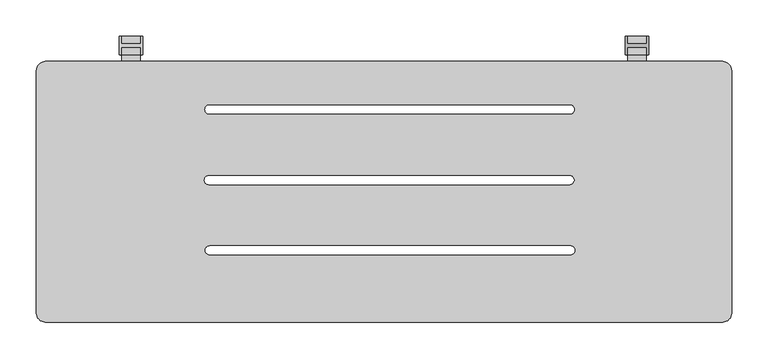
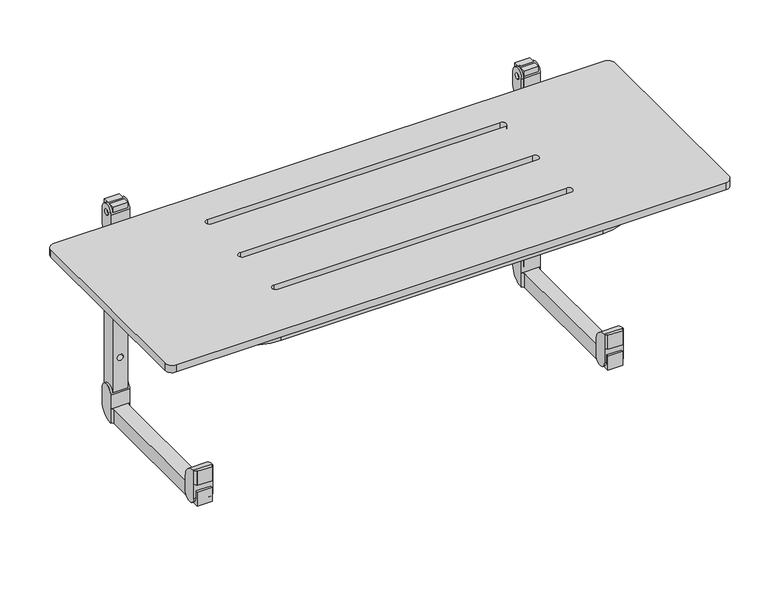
"""IFC4 building model written with IfcOpenShell, lengths in millimetres: proxy geometry, Shower Seat_Metlam_Folding_Support Legs : 960w x 395d x 498h (ML995_CL)."""

from ifc_helpers import new_model, si_unit, point, frame, frame_2d, origin, place, context, project, spatial, polyline, circle_curve, trimmed, segment, composite_curve, outline, extrude, source, transform, mapped, element, save
from ifc_brep_helpers import plane_surface, cylinder_surface, revolved_surface, advanced_brep


def specialty_equipment_d78e6f0b(model_context):
    return source(origin(), model_context, "Body", "SolidModel", [
        advanced_brep(
        [(165.1717474, -493.4976949, 138.1548324), (165.1717474, -493.4976949, 113.0931199), (165.1717474, -476.9976949, 113.0931199), (165.1717474, -489.4976949, 125.5931199), (165.1717474, -489.4976949, 138.1548324), (165.1717474, -249.3995044, 113.0931199), (165.1717474, -249.3995044, 138.1548324), (165.1717474, -464.4976949, 138.1548324), (165.1717474, -464.4976949, 125.5931199), (140.1717474, -493.4976949, 113.0931199), (140.1717474, -493.4976949, 138.1548324), (140.1717474, -489.4976949, 138.1548324), (140.1717474, -489.4976949, 125.5931199), (140.1717474, -476.9976949, 113.0931199), (140.1717474, -249.3995044, 138.1548324), (140.1717474, -249.3995044, 113.0931199), (140.1717474, -464.4976949, 125.5931199), (140.1717474, -464.4976949, 138.1548324), (136.6717474, -245.8995044, 113.0931199), (136.6717474, -244.6671774, 113.0931199), (168.6717474, -244.6671774, 113.0931199), (168.6717474, -245.8995044, 113.0931199), (136.6717474, -245.8995044, 138.1548324), (168.6717474, -245.8995044, 138.1548324), (136.6717474, -220.8995044, 136.8607929), (136.6717474, -245.8995044, 162.885238), (136.6717474, -220.8995044, 162.885238), (168.6717474, -220.8995044, 136.8607929), (168.6717474, -220.8995044, 162.885238), (168.6717474, -245.8995044, 162.885238), (136.6717474, -488.2653679, 175.385238), (136.6717474, -489.4976949, 175.385238), (140.1717474, -492.9976949, 175.385238), (140.1717474, -493.4976949, 175.385238), (165.1717474, -493.4976949, 175.385238), (165.1717474, -492.9976949, 175.385238), (168.6717474, -489.4976949, 175.385238), (168.6717474, -488.2653679, 175.385238), (168.6717474, -489.4976949, 150.385238), (165.1717474, -492.9976949, 150.385238), (165.1717474, -493.4976949, 150.385238), (140.1717474, -493.4976949, 150.385238), (140.1717474, -492.9976949, 150.385238), (136.6717474, -489.4976949, 150.385238), (136.6717474, -464.4976949, 151.617565), (136.6717474, -464.4976949, 125.5931199), (136.6717474, -489.4976949, 125.5931199), (168.6717474, -464.4976949, 151.617565), (168.6717474, -489.4976949, 125.5931199), (168.6717474, -464.4976949, 125.5931199)],
        [
            (0, 1),
            (1, 2),
            (2, 3, circle_curve(frame((165.1717474, -476.9976949, 125.5931199), z_axis=(-1.0, 0.0, 0.0), x_axis=(0.0, 0.0, -1.0)), 12.5)),
            (3, 4),
            (4, 0),
            (5, 6),
            (6, 7),
            (7, 8),
            (8, 2, circle_curve(frame((165.1717474, -476.9976949, 125.5931199), z_axis=(-1.0, 0.0, 0.0), x_axis=(0.0, 0.0, -1.0)), 12.5)),
            (2, 5),
            (9, 10),
            (10, 11),
            (11, 12),
            (12, 13, circle_curve(frame((140.1717474, -476.9976949, 125.5931199), z_axis=(1.0, 0.0, 0.0), x_axis=(0.0, 0.0, -1.0)), 12.5)),
            (13, 9),
            (14, 15),
            (15, 13),
            (13, 16, circle_curve(frame((140.1717474, -476.9976949, 125.5931199), z_axis=(1.0, 0.0, 0.0), x_axis=(0.0, 0.0, -1.0)), 12.5)),
            (16, 17),
            (17, 14),
            (1, 9),
            (15, 18, circle_curve(frame((136.6717474, -249.3995044, 113.0931199), z_axis=(0.0, 0.0, 1.0), x_axis=(-1.0, 0.0, 0.0)), 3.5)),
            (18, 19),
            (19, 20),
            (20, 21),
            (21, 5, circle_curve(frame((168.6717474, -249.3995044, 113.0931199), z_axis=(0.0, 0.0, 1.0), x_axis=(-1.0, 0.0, 0.0)), 3.5)),
            (0, 10),
            (4, 11),
            (22, 14, circle_curve(frame((136.6717474, -249.3995044, 138.1548324), z_axis=(0.0, 0.0, -1.0), x_axis=(-1.0, 0.0, 0.0)), 3.5)),
            (17, 7),
            (6, 23, circle_curve(frame((168.6717474, -249.3995044, 138.1548324), z_axis=(0.0, 0.0, -1.0), x_axis=(-1.0, 0.0, 0.0)), 3.5)),
            (23, 22),
            (24, 19, circle_curve(frame((136.6717474, -244.6671774, 136.8607929), z_axis=(-1.0, 0.0, 0.0), x_axis=(0.0, 0.0, 1.0)), 23.767673)),
            (18, 22),
            (22, 25),
            (25, 26, circle_curve(frame((136.6717474, -233.3995044, 162.885238), z_axis=(-1.0, 0.0, 0.0), x_axis=(0.0, 0.0, 1.0)), 12.5)),
            (26, 24),
            (27, 28),
            (28, 29, circle_curve(frame((168.6717474, -233.3995044, 162.885238), z_axis=(1.0, 0.0, 0.0), x_axis=(0.0, 0.0, 1.0)), 12.5)),
            (29, 23),
            (23, 21),
            (20, 27, circle_curve(frame((168.6717474, -244.6671774, 136.8607929), z_axis=(1.0, 0.0, 0.0), x_axis=(0.0, 0.0, 1.0)), 23.767673)),
            (24, 27),
            (29, 25),
            (28, 26),
            (30, 31),
            (31, 32, circle_curve(frame((136.6717474, -492.9976949, 175.385238), z_axis=(0.0, 0.0, -1.0), x_axis=(-1.0, 0.0, 0.0)), 3.5)),
            (32, 33),
            (33, 34),
            (34, 35),
            (35, 36, circle_curve(frame((168.6717474, -492.9976949, 175.385238), z_axis=(0.0, 0.0, -1.0), x_axis=(-1.0, 0.0, 0.0)), 3.5)),
            (36, 37),
            (37, 30),
            (38, 39, circle_curve(frame((168.6717474, -492.9976949, 150.385238), z_axis=(0.0, 0.0, 1.0), x_axis=(-1.0, 0.0, 0.0)), 3.5)),
            (39, 40),
            (40, 41),
            (41, 42),
            (42, 43, circle_curve(frame((136.6717474, -492.9976949, 150.385238), z_axis=(0.0, 0.0, 1.0), x_axis=(-1.0, 0.0, 0.0)), 3.5)),
            (43, 38),
            (44, 45),
            (45, 46, circle_curve(frame((136.6717474, -476.9976949, 125.5931199), z_axis=(-1.0, 0.0, 0.0), x_axis=(0.0, 0.0, -1.0)), 12.5)),
            (46, 43),
            (43, 31),
            (30, 44, circle_curve(frame((136.6717474, -488.2653679, 151.617565), z_axis=(-1.0, 0.0, 0.0), x_axis=(0.0, 0.0, -1.0)), 23.767673)),
            (47, 37, circle_curve(frame((168.6717474, -488.2653679, 151.617565), z_axis=(1.0, 0.0, 0.0), x_axis=(0.0, 0.0, -1.0)), 23.767673)),
            (36, 38),
            (38, 48),
            (48, 49, circle_curve(frame((168.6717474, -476.9976949, 125.5931199), z_axis=(1.0, 0.0, 0.0), x_axis=(0.0, 0.0, -1.0)), 12.5)),
            (49, 47),
            (47, 44),
            (3, 48),
            (46, 12),
            (45, 16),
            (8, 49),
            (41, 33),
            (32, 42),
            (34, 40),
            (39, 35),
        ],
        [
            plane_surface(frame((165.1717474, -493.4976949, 138.1548324), z_axis=(1.0, 0.0, 0.0), x_axis=(0.0, -1.0, 0.0))),
            plane_surface(frame((140.1717474, -493.4976949, 138.1548324), z_axis=(-1.0, 0.0, 0.0), x_axis=(0.0, 1.0, 0.0))),
            plane_surface(frame((165.1717474, -493.4976949, 113.0931199), z_axis=(0.0, 0.0, -1.0), x_axis=(-1.0, 0.0, 0.0))),
            plane_surface(frame((165.1717474, -493.4976949, 138.1548324), z_axis=(0.0, -1.0, 0.0), x_axis=(-1.0, 0.0, 0.0))),
            plane_surface(frame((165.1717474, -245.8995044, 138.1548324), z_axis=(0.0, 0.0, 1.0), x_axis=(-1.0, 0.0, 0.0))),
            plane_surface(frame((136.6717474, -244.6671774, 160.6284659), z_axis=(-1.0, 0.0, 0.0), x_axis=(0.0, 1.0, 0.0))),
            plane_surface(frame((168.6717474, -244.6671774, 160.6284659), z_axis=(1.0, 0.0, 0.0), x_axis=(0.0, -1.0, 0.0))),
            cylinder_surface(frame((168.6717474, -244.6671774, 136.8607929), z_axis=(-1.0, 0.0, 0.0), x_axis=(0.0, 0.0, 1.0)), 23.767673),
            plane_surface(frame((136.6717474, -245.8995044, 113.0931199), z_axis=(0.0, -1.0, 0.0), x_axis=(1.0, 0.0, 0.0))),
            cylinder_surface(frame((168.6717474, -233.3995044, 162.885238), z_axis=(-1.0, 0.0, 0.0), x_axis=(0.0, 0.0, 1.0)), 12.5),
            plane_surface(frame((136.6717474, -220.8995044, 162.885238), z_axis=(0.0, 1.0, -1.754105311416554e-12), x_axis=(1.0, 0.0, 0.0))),
            plane_surface(frame((-529.8282526, -489.4976949, 175.385238), z_axis=(0.0, 0.0, 1.0), x_axis=(-1.0, 0.0, 0.0))),
            plane_surface(frame((-529.8282526, -493.4976949, 150.385238), z_axis=(0.0, 0.0, -1.0), x_axis=(-1.0, 0.0, 0.0))),
            plane_surface(frame((136.6717474, -464.4976949, 125.5931199), z_axis=(-1.0, 0.0, 0.0), x_axis=(0.0, 0.0, -1.0))),
            plane_surface(frame((168.6717474, -464.4976949, 125.5931199), z_axis=(1.0, 0.0, 0.0), x_axis=(0.0, 0.0, 1.0))),
            cylinder_surface(frame((168.6717474, -488.2653679, 151.617565), z_axis=(-1.0, 0.0, 0.0), x_axis=(0.0, 0.0, -1.0)), 23.767673),
            plane_surface(frame((136.6717474, -489.4976949, 125.5931199), z_axis=(0.0, -1.0, 0.0), x_axis=(1.0, 0.0, 0.0))),
            cylinder_surface(frame((168.6717474, -476.9976949, 125.5931199), z_axis=(-1.0, 0.0, 0.0), x_axis=(0.0, 0.0, -1.0)), 12.5),
            plane_surface(frame((136.6717474, -464.4976949, 151.617565), z_axis=(0.0, 1.0, 0.0), x_axis=(1.0, 0.0, 0.0))),
            plane_surface(frame((140.1717474, -489.4976949, 175.385238), z_axis=(-1.0, 0.0, 0.0), x_axis=(0.0, 1.0, 0.0))),
            plane_surface(frame((165.1717474, -489.4976949, 175.385238), z_axis=(1.0, 0.0, 0.0), x_axis=(0.0, -1.0, 0.0))),
            plane_surface(frame((140.1717474, -493.4976949, 150.385238), z_axis=(0.0, -1.0, 0.0), x_axis=(1.0, 0.0, 0.0))),
            revolved_surface(polyline([(165.1717474, -249.3995044, 113.0931199), (165.1717474, -249.3995044, 138.1548324)]), (168.6717474, -249.3995044, 0.0), (0.0, 0.0, -1.0)),
            revolved_surface(polyline([(133.1717474, -249.3995044, 113.0931199), (133.1717474, -249.3995044, 138.1548324)]), (136.6717474, -249.3995044, 113.0931199), (0.0, 0.0, -1.0)),
            revolved_surface(polyline([(165.1717474, -492.9976949, 150.385238), (165.1717474, -492.9976949, 175.385238)]), (168.6717474, -492.9976949, 0.0), (0.0, 0.0, -1.0)),
            revolved_surface(polyline([(133.1717474, -492.9976949, 150.385238), (133.1717474, -492.9976949, 175.385238)]), (136.6717474, -492.9976949, 0.0), (0.0, 0.0, -1.0)),
        ],
        [
            (0, [[1, 2, 3, 4, 5]]),
            (0, [[6, 7, 8, 9, 10]]),
            (1, [[11, 12, 13, 14, 15]]),
            (1, [[16, 17, 18, 19, 20]]),
            (2, [[21, -15, -17, 22, 23, 24, 25, 26, -10, -2]]),
            (3, [[-1, 27, -11, -21]]),
            (4, [[-27, -5, 28, -12]]),
            (4, [[29, -20, 30, -7, 31, 32]]),
            (5, [[33, -23, 34, 35, 36, 37]]),
            (6, [[38, 39, 40, 41, -25, 42]]),
            (7, [[-33, 43, -42, -24]]),
            (8, [[44, -35, -32, -40]]),
            (9, [[-36, -44, -39, 45]]),
            (10, [[-37, -45, -38, -43]]),
            (11, [[46, 47, 48, 49, 50, 51, 52, 53]]),
            (12, [[54, 55, 56, 57, 58, 59]]),
            (13, [[60, 61, 62, 63, -46, 64]]),
            (14, [[65, -52, 66, 67, 68, 69]]),
            (15, [[-64, -53, -65, 70]]),
            (16, [[71, -67, -59, -62, 72, -13, -28, -4]]),
            (17, [[-61, 73, -18, -14, -72]]),
            (17, [[-68, -71, -3, -9, 74]]),
            (18, [[-60, -70, -69, -74, -8, -30, -19, -73]]),
            (19, [[75, -48, 76, -57]]),
            (20, [[77, -55, 78, -50]]),
            (21, [[-75, -56, -77, -49]]),
            (22, [[-31, -6, -26, -41]]),
            (23, [[-29, -34, -22, -16]]),
            (24, [[-51, -78, -54, -66]]),
            (25, [[-47, -63, -58, -76]]),
        ],
    ),
        advanced_brep(
        [(-526.3282526, -244.6671774, 113.0931199), (-526.3282526, -245.8995044, 113.0931199), (-529.8282526, -249.3995044, 113.0931199), (-529.8282526, -476.9976949, 113.0931199), (-529.8282526, -493.4976949, 113.0931199), (-554.8282526, -493.4976949, 113.0931199), (-554.8282526, -476.9976949, 113.0931199), (-554.8282526, -249.3995044, 113.0931199), (-558.3282526, -245.8995044, 113.0931199), (-558.3282526, -244.6671774, 113.0931199), (-554.8282526, -493.4976949, 138.1548324), (-529.8282526, -493.4976949, 138.1548324), (-529.8282526, -489.4976949, 138.1548324), (-554.8282526, -489.4976949, 138.1548324), (-529.8282526, -249.3995044, 138.1548324), (-526.3282526, -245.8995044, 138.1548324), (-558.3282526, -245.8995044, 138.1548324), (-554.8282526, -249.3995044, 138.1548324), (-554.8282526, -464.4976949, 138.1548324), (-529.8282526, -464.4976949, 138.1548324), (-526.3282526, -220.8995044, 136.8607929), (-526.3282526, -220.8995044, 162.885238), (-526.3282526, -245.8995044, 162.885238), (-558.3282526, -220.8995044, 136.8607929), (-558.3282526, -245.8995044, 162.885238), (-558.3282526, -220.8995044, 162.885238), (-554.8282526, -489.4976949, 125.5931199), (-554.8282526, -464.4976949, 125.5931199), (-529.8282526, -489.4976949, 125.5931199), (-529.8282526, -464.4976949, 125.5931199), (-529.8282526, -493.4976949, 175.385238), (-529.8282526, -493.4976949, 150.385238), (-529.8282526, -492.9976949, 150.385238), (-529.8282526, -492.9976949, 175.385238), (-554.8282526, -493.4976949, 150.385238), (-554.8282526, -493.4976949, 175.385238), (-554.8282526, -492.9976949, 175.385238), (-554.8282526, -492.9976949, 150.385238), (-526.3282526, -489.4976949, 175.385238), (-526.3282526, -488.2653679, 175.385238), (-558.3282526, -488.2653679, 175.385238), (-558.3282526, -489.4976949, 175.385238), (-558.3282526, -489.4976949, 150.385238), (-526.3282526, -489.4976949, 150.385238), (-526.3282526, -464.4976949, 151.617565), (-526.3282526, -489.4976949, 125.5931199), (-526.3282526, -464.4976949, 125.5931199), (-558.3282526, -464.4976949, 151.617565), (-558.3282526, -464.4976949, 125.5931199), (-558.3282526, -489.4976949, 125.5931199)],
        [
            (0, 1),
            (1, 2, circle_curve(frame((-526.3282526, -249.3995044, 113.0931199), z_axis=(0.0, 0.0, 1.0), x_axis=(-1.0, 0.0, 0.0)), 3.5)),
            (2, 3),
            (3, 4),
            (4, 5),
            (5, 6),
            (6, 7),
            (7, 8, circle_curve(frame((-558.3282526, -249.3995044, 113.0931199), z_axis=(0.0, 0.0, 1.0), x_axis=(-1.0, 0.0, 0.0)), 3.5)),
            (8, 9),
            (9, 0),
            (10, 11),
            (11, 12),
            (12, 13),
            (13, 10),
            (14, 15, circle_curve(frame((-526.3282526, -249.3995044, 138.1548324), z_axis=(0.0, 0.0, -1.0), x_axis=(-1.0, 0.0, 0.0)), 3.5)),
            (15, 16),
            (16, 17, circle_curve(frame((-558.3282526, -249.3995044, 138.1548324), z_axis=(0.0, 0.0, -1.0), x_axis=(-1.0, 0.0, 0.0)), 3.5)),
            (17, 18),
            (18, 19),
            (19, 14),
            (20, 21),
            (21, 22, circle_curve(frame((-526.3282526, -233.3995044, 162.885238), z_axis=(1.0, 0.0, 0.0), x_axis=(0.0, 0.0, 1.0)), 12.5)),
            (22, 15),
            (15, 1),
            (0, 20, circle_curve(frame((-526.3282526, -244.6671774, 136.8607929), z_axis=(1.0, 0.0, 0.0), x_axis=(0.0, 0.0, 1.0)), 23.767673)),
            (23, 9, circle_curve(frame((-558.3282526, -244.6671774, 136.8607929), z_axis=(-1.0, 0.0, 0.0), x_axis=(0.0, 0.0, 1.0)), 23.767673)),
            (8, 16),
            (16, 24),
            (24, 25, circle_curve(frame((-558.3282526, -233.3995044, 162.885238), z_axis=(-1.0, 0.0, 0.0), x_axis=(0.0, 0.0, 1.0)), 12.5)),
            (25, 23),
            (23, 20),
            (22, 24),
            (21, 25),
            (5, 10),
            (13, 26),
            (26, 6, circle_curve(frame((-554.8282526, -476.9976949, 125.5931199), z_axis=(1.0, 0.0, 0.0), x_axis=(0.0, 0.0, -1.0)), 12.5)),
            (17, 7),
            (6, 27, circle_curve(frame((-554.8282526, -476.9976949, 125.5931199), z_axis=(1.0, 0.0, 0.0), x_axis=(0.0, 0.0, -1.0)), 12.5)),
            (27, 18),
            (11, 4),
            (3, 28, circle_curve(frame((-529.8282526, -476.9976949, 125.5931199), z_axis=(-1.0, 0.0, 0.0), x_axis=(0.0, 0.0, -1.0)), 12.5)),
            (28, 12),
            (2, 14),
            (19, 29),
            (29, 3, circle_curve(frame((-529.8282526, -476.9976949, 125.5931199), z_axis=(-1.0, 0.0, 0.0), x_axis=(0.0, 0.0, -1.0)), 12.5)),
            (30, 31),
            (31, 32),
            (32, 33),
            (33, 30),
            (34, 35),
            (35, 36),
            (36, 37),
            (37, 34),
            (35, 30),
            (33, 38, circle_curve(frame((-526.3282526, -492.9976949, 175.385238), z_axis=(0.0, 0.0, -1.0), x_axis=(-1.0, 0.0, 0.0)), 3.5)),
            (38, 39),
            (39, 40),
            (40, 41),
            (41, 36, circle_curve(frame((-558.3282526, -492.9976949, 175.385238), z_axis=(0.0, 0.0, -1.0), x_axis=(-1.0, 0.0, 0.0)), 3.5)),
            (31, 34),
            (37, 42, circle_curve(frame((-558.3282526, -492.9976949, 150.385238), z_axis=(0.0, 0.0, 1.0), x_axis=(-1.0, 0.0, 0.0)), 3.5)),
            (42, 43),
            (43, 32, circle_curve(frame((-526.3282526, -492.9976949, 150.385238), z_axis=(0.0, 0.0, 1.0), x_axis=(-1.0, 0.0, 0.0)), 3.5)),
            (44, 39, circle_curve(frame((-526.3282526, -488.2653679, 151.617565), z_axis=(1.0, 0.0, 0.0), x_axis=(0.0, 0.0, -1.0)), 23.767673)),
            (38, 43),
            (43, 45),
            (45, 46, circle_curve(frame((-526.3282526, -476.9976949, 125.5931199), z_axis=(1.0, 0.0, 0.0), x_axis=(0.0, 0.0, -1.0)), 12.5)),
            (46, 44),
            (47, 48),
            (48, 49, circle_curve(frame((-558.3282526, -476.9976949, 125.5931199), z_axis=(-1.0, 0.0, 0.0), x_axis=(0.0, 0.0, -1.0)), 12.5)),
            (49, 42),
            (42, 41),
            (40, 47, circle_curve(frame((-558.3282526, -488.2653679, 151.617565), z_axis=(-1.0, 0.0, 0.0), x_axis=(0.0, 0.0, -1.0)), 23.767673)),
            (44, 47),
            (49, 26),
            (28, 45),
            (29, 46),
            (48, 27),
        ],
        [
            plane_surface(frame((165.1717474, -493.4976949, 113.0931199), z_axis=(0.0, 0.0, -1.0), x_axis=(-1.0, 0.0, 0.0))),
            plane_surface(frame((165.1717474, -245.8995044, 138.1548324), z_axis=(0.0, 0.0, 1.0), x_axis=(-1.0, 0.0, 0.0))),
            plane_surface(frame((-526.3282526, -220.8995044, 162.885238), z_axis=(1.0, 0.0, 0.0), x_axis=(0.0, 0.0, 1.0))),
            plane_surface(frame((-558.3282526, -220.8995044, 162.885238), z_axis=(-1.0, 0.0, 0.0), x_axis=(0.0, 0.0, -1.0))),
            cylinder_surface(frame((-558.3282526, -244.6671774, 136.8607929), z_axis=(1.0, 0.0, 0.0), x_axis=(0.0, 0.0, 1.0)), 23.767673),
            plane_surface(frame((-526.3282526, -245.8995044, 162.885238), z_axis=(0.0, -1.0, 0.0), x_axis=(-1.0, 0.0, 0.0))),
            cylinder_surface(frame((-558.3282526, -233.3995044, 162.885238), z_axis=(1.0, 0.0, 0.0), x_axis=(0.0, 0.0, 1.0)), 12.5),
            plane_surface(frame((-526.3282526, -220.8995044, 136.8607929), z_axis=(0.0, 1.0, 0.0), x_axis=(-1.0, 0.0, 0.0))),
            plane_surface(frame((-554.8282526, -245.8995044, 138.1548324), z_axis=(-1.0, 0.0, 0.0), x_axis=(0.0, 0.0, -1.0))),
            plane_surface(frame((-529.8282526, -245.8995044, 138.1548324), z_axis=(1.0, 0.0, 0.0), x_axis=(0.0, 0.0, 1.0))),
            plane_surface(frame((-554.8282526, -493.4976949, 113.0931199), z_axis=(0.0, -1.0, 0.0), x_axis=(1.0, 0.0, 0.0))),
            plane_surface(frame((-529.8282526, -493.4976949, 175.385238), z_axis=(1.0, 0.0, 0.0), x_axis=(0.0, 0.0, -1.0))),
            plane_surface(frame((-554.8282526, -493.4976949, 175.385238), z_axis=(-1.0, 0.0, 0.0), x_axis=(0.0, 0.0, 1.0))),
            plane_surface(frame((-529.8282526, -489.4976949, 175.385238), z_axis=(0.0, 0.0, 1.0), x_axis=(-1.0, 0.0, 0.0))),
            plane_surface(frame((-529.8282526, -493.4976949, 150.385238), z_axis=(0.0, 0.0, -1.0), x_axis=(-1.0, 0.0, 0.0))),
            plane_surface(frame((-529.8282526, -493.4976949, 175.385238), z_axis=(0.0, -1.0, 0.0), x_axis=(-1.0, 0.0, 0.0))),
            plane_surface(frame((-526.3282526, -488.2653679, 127.849892), z_axis=(1.0, 0.0, 0.0), x_axis=(0.0, 1.0, 0.0))),
            plane_surface(frame((-558.3282526, -488.2653679, 127.849892), z_axis=(-1.0, 0.0, 0.0), x_axis=(0.0, -1.0, 0.0))),
            cylinder_surface(frame((-558.3282526, -488.2653679, 151.617565), z_axis=(1.0, 0.0, 0.0), x_axis=(0.0, 0.0, -1.0)), 23.767673),
            plane_surface(frame((-526.3282526, -489.4976949, 175.385238), z_axis=(0.0, -1.0, 0.0), x_axis=(-1.0, 0.0, 0.0))),
            cylinder_surface(frame((-558.3282526, -476.9976949, 125.5931199), z_axis=(1.0, 0.0, 0.0), x_axis=(0.0, 0.0, -1.0)), 12.5),
            plane_surface(frame((-526.3282526, -464.4976949, 125.5931199), z_axis=(0.0, 1.0, 0.0), x_axis=(-1.0, 0.0, 0.0))),
            revolved_surface(polyline([(-529.8282526, -249.3995044, 113.0931199), (-529.8282526, -249.3995044, 138.1548324)]), (-526.3282526, -249.3995044, 0.0), (0.0, 0.0, -1.0)),
            revolved_surface(polyline([(-561.8282526, -249.3995044, 113.0931199), (-561.8282526, -249.3995044, 138.1548324)]), (-558.3282526, -249.3995044, 0.0), (0.0, 0.0, -1.0)),
            revolved_surface(polyline([(-561.8282526, -492.9976949, 150.385238), (-561.8282526, -492.9976949, 175.385238)]), (-558.3282526, -492.9976949, 150.385238), (0.0, 0.0, -1.0)),
            revolved_surface(polyline([(-529.8282526, -492.9976949, 150.385238), (-529.8282526, -492.9976949, 175.385238)]), (-526.3282526, -492.9976949, 0.0), (0.0, 0.0, -1.0)),
        ],
        [
            (0, [[1, 2, 3, 4, 5, 6, 7, 8, 9, 10]]),
            (1, [[11, 12, 13, 14]]),
            (1, [[15, 16, 17, 18, 19, 20]]),
            (2, [[21, 22, 23, 24, -1, 25]]),
            (3, [[26, -9, 27, 28, 29, 30]]),
            (4, [[-25, -10, -26, 31]]),
            (5, [[32, -28, -16, -23]]),
            (6, [[-22, 33, -29, -32]]),
            (7, [[-21, -31, -30, -33]]),
            (8, [[34, -14, 35, 36, -6]]),
            (8, [[37, -7, 38, 39, -18]]),
            (9, [[40, -4, 41, 42, -12]]),
            (9, [[43, -20, 44, 45, -3]]),
            (10, [[-34, -5, -40, -11]]),
            (11, [[46, 47, 48, 49]]),
            (12, [[50, 51, 52, 53]]),
            (13, [[54, -49, 55, 56, 57, 58, 59, -51]]),
            (14, [[60, -53, 61, 62, 63, -47]]),
            (15, [[-46, -54, -50, -60]]),
            (16, [[64, -56, 65, 66, 67, 68]]),
            (17, [[69, 70, 71, 72, -58, 73]]),
            (18, [[-64, 74, -73, -57]]),
            (19, [[75, -35, -13, -42, 76, -66, -62, -71]]),
            (20, [[-67, -76, -41, -45, 77]]),
            (20, [[-70, 78, -38, -36, -75]]),
            (21, [[-68, -77, -44, -19, -39, -78, -69, -74]]),
            (22, [[-15, -43, -2, -24]]),
            (23, [[-17, -27, -8, -37]]),
            (24, [[-59, -72, -61, -52]]),
            (25, [[-55, -48, -63, -65]]),
        ],
    ),
        advanced_brep(
        [(-526.3282526, -245.8995044, 436.5321543), (-526.3282526, -244.4264575, 436.5321543), (-526.3282526, -220.8995044, 460.0591074), (-526.3282526, -220.8995044, 485.360011), (-526.3282526, -245.8995044, 485.360011), (-526.3282526, -245.8995044, 461.5321543), (-526.3282526, -233.1812972, 477.7942245), (-526.3282526, -233.1812972, 487.7942245), (-558.3282526, -245.8995044, 485.360011), (-558.3282526, -220.8995044, 485.360011), (-558.3282526, -220.8995044, 460.0591074), (-558.3282526, -244.4264575, 436.5321543), (-558.3282526, -245.8995044, 436.5321543), (-558.3282526, -245.8995044, 461.5321543), (-558.3282526, -233.1812972, 477.7942245), (-558.3282526, -233.1812972, 487.7942245), (-554.8282526, -245.8995044, 461.5321543), (-554.8282526, -245.8995044, 462.9886299), (-529.8282526, -245.8995044, 462.9886299), (-529.8282526, -245.8995044, 461.5321543), (-529.8282526, -249.3995044, 436.5321543), (-529.8282526, -500.3538152, 436.5321543), (-467.3282526, -562.8538152, 436.5321543), (77.6717474, -562.8538152, 436.5321543), (140.1717474, -500.3538152, 436.5321543), (140.1717474, -249.3995044, 436.5321543), (136.6717474, -245.8995044, 436.5321543), (136.6717474, -244.4264575, 436.5321543), (168.6717474, -244.4264575, 436.5321543), (168.6717474, -245.8995044, 436.5321543), (165.1717474, -249.3995044, 436.5321543), (165.1717474, -500.3538152, 436.5321543), (77.6717474, -587.8538152, 436.5321543), (-467.3282526, -587.8538152, 436.5321543), (-554.8282526, -500.3538152, 436.5321543), (-554.8282526, -249.3995044, 436.5321543), (136.6717474, -245.8995044, 485.360011), (136.6717474, -220.8995044, 485.360011), (136.6717474, -220.8995044, 460.0591074), (136.6717474, -245.8995044, 461.5321543), (136.6717474, -233.1812972, 477.7942245), (136.6717474, -233.1812972, 487.7942245), (168.6717474, -220.8995044, 460.0591074), (168.6717474, -220.8995044, 485.360011), (168.6717474, -245.8995044, 485.360011), (168.6717474, -245.8995044, 461.5321543), (168.6717474, -233.1812972, 477.7942245), (168.6717474, -233.1812972, 487.7942245), (140.1717474, -245.8995044, 461.5321543), (140.1717474, -245.8995044, 462.9886299), (165.1717474, -245.8995044, 462.9886299), (165.1717474, -245.8995044, 461.5321543), (140.1717474, -249.3995044, 461.5321543), (165.1717474, -249.3995044, 461.5321543), (-529.8282526, -249.3995044, 461.5321543), (-554.8282526, -249.3995044, 461.5321543), (140.1717474, -500.3538152, 462.9886299), (77.6717474, -562.8538152, 462.9886299), (-467.3282526, -562.8538152, 462.9886299), (-529.8282526, -500.3538152, 462.9886299), (-554.8282526, -500.3538152, 462.9886299), (-467.3282526, -587.8538152, 462.9886299), (77.6717474, -587.8538152, 462.9886299), (165.1717474, -500.3538152, 462.9886299)],
        [
            (0, 1),
            (1, 2, circle_curve(frame((-526.3282526, -244.4264575, 460.0591074), z_axis=(1.0, 0.0, 0.0), x_axis=(0.0, 0.0, 1.0)), 23.5269531)),
            (2, 3),
            (3, 4, circle_curve(frame((-526.3282526, -233.3995044, 485.360011), z_axis=(1.0, 0.0, 0.0), x_axis=(0.0, 0.0, 1.0)), 12.5)),
            (4, 5),
            (5, 0),
            (6, 7, circle_curve(frame((-526.3282526, -233.1812972, 482.7942245), z_axis=(-1.0, 0.0, 0.0), x_axis=(0.0, 0.0, 1.0)), 5.0)),
            (7, 6, circle_curve(frame((-526.3282526, -233.1812972, 482.7942245), z_axis=(-1.0, 0.0, 0.0), x_axis=(0.0, 0.0, 1.0)), 5.0)),
            (8, 9, circle_curve(frame((-558.3282526, -233.3995044, 485.360011), z_axis=(-1.0, 0.0, 0.0), x_axis=(0.0, 0.0, 1.0)), 12.5)),
            (9, 10),
            (10, 11, circle_curve(frame((-558.3282526, -244.4264575, 460.0591074), z_axis=(-1.0, 0.0, 0.0), x_axis=(0.0, 0.0, 1.0)), 23.5269531)),
            (11, 12),
            (12, 13),
            (13, 8),
            (14, 15, circle_curve(frame((-558.3282526, -233.1812972, 482.7942245), z_axis=(1.0, 0.0, 0.0), x_axis=(0.0, 0.0, 1.0)), 5.0)),
            (15, 14, circle_curve(frame((-558.3282526, -233.1812972, 482.7942245), z_axis=(1.0, 0.0, 0.0), x_axis=(0.0, 0.0, 1.0)), 5.0)),
            (3, 9),
            (8, 4),
            (2, 10),
            (13, 16),
            (16, 17),
            (17, 18),
            (18, 19),
            (19, 5),
            (7, 15),
            (14, 6),
            (1, 11),
            (0, 20, circle_curve(frame((-526.3282526, -249.3995044, 436.5321543), z_axis=(0.0, 0.0, 1.0), x_axis=(-1.0, 0.0, 0.0)), 3.5)),
            (20, 21),
            (21, 22, circle_curve(frame((-467.3282526, -500.3538152, 436.5321543), z_axis=(0.0, 0.0, 1.0), x_axis=(0.0, -1.0, 0.0)), 62.5)),
            (22, 23),
            (23, 24, circle_curve(frame((77.6717474, -500.3538152, 436.5321543), z_axis=(0.0, 0.0, 1.0), x_axis=(1.0, 0.0, 0.0)), 62.5)),
            (24, 25),
            (25, 26, circle_curve(frame((136.6717474, -249.3995044, 436.5321543), z_axis=(0.0, 0.0, 1.0), x_axis=(-1.0, 0.0, 0.0)), 3.5)),
            (26, 27),
            (27, 28),
            (28, 29),
            (29, 30, circle_curve(frame((168.6717474, -249.3995044, 436.5321543), z_axis=(0.0, 0.0, 1.0), x_axis=(-1.0, 0.0, 0.0)), 3.5)),
            (30, 31),
            (31, 32, circle_curve(frame((77.6717474, -500.3538152, 436.5321543), z_axis=(0.0, 0.0, -1.0), x_axis=(1.0, 0.0, 0.0)), 87.5)),
            (32, 33),
            (33, 34, circle_curve(frame((-467.3282526, -500.3538152, 436.5321543), z_axis=(0.0, 0.0, -1.0), x_axis=(0.0, -1.0, 0.0)), 87.5)),
            (34, 35),
            (35, 12, circle_curve(frame((-558.3282526, -249.3995044, 436.5321543), z_axis=(0.0, 0.0, 1.0), x_axis=(-1.0, 0.0, 0.0)), 3.5)),
            (36, 37, circle_curve(frame((136.6717474, -233.3995044, 485.360011), z_axis=(-1.0, 0.0, 0.0), x_axis=(0.0, 0.0, 1.0)), 12.5)),
            (37, 38),
            (38, 27, circle_curve(frame((136.6717474, -244.4264575, 460.0591074), z_axis=(-1.0, 0.0, 0.0), x_axis=(0.0, 0.0, 1.0)), 23.5269531)),
            (26, 39),
            (39, 36),
            (40, 41, circle_curve(frame((136.6717474, -233.1812972, 482.7942245), z_axis=(1.0, 0.0, 0.0), x_axis=(0.0, 0.0, 1.0)), 5.0)),
            (41, 40, circle_curve(frame((136.6717474, -233.1812972, 482.7942245), z_axis=(1.0, 0.0, 0.0), x_axis=(0.0, 0.0, 1.0)), 5.0)),
            (28, 42, circle_curve(frame((168.6717474, -244.4264575, 460.0591074), z_axis=(1.0, 0.0, 0.0), x_axis=(0.0, 0.0, 1.0)), 23.5269531)),
            (42, 43),
            (43, 44, circle_curve(frame((168.6717474, -233.3995044, 485.360011), z_axis=(1.0, 0.0, 0.0), x_axis=(0.0, 0.0, 1.0)), 12.5)),
            (44, 45),
            (45, 29),
            (46, 47, circle_curve(frame((168.6717474, -233.1812972, 482.7942245), z_axis=(-1.0, 0.0, 0.0), x_axis=(0.0, 0.0, 1.0)), 5.0)),
            (47, 46, circle_curve(frame((168.6717474, -233.1812972, 482.7942245), z_axis=(-1.0, 0.0, 0.0), x_axis=(0.0, 0.0, 1.0)), 5.0)),
            (36, 44),
            (43, 37),
            (42, 38),
            (39, 48),
            (48, 49),
            (49, 50),
            (50, 51),
            (51, 45),
            (40, 46),
            (47, 41),
            (39, 52, circle_curve(frame((136.6717474, -249.3995044, 461.5321543), z_axis=(0.0, 0.0, -1.0), x_axis=(-1.0, 0.0, 0.0)), 3.5)),
            (52, 48),
            (53, 45, circle_curve(frame((168.6717474, -249.3995044, 461.5321543), z_axis=(0.0, 0.0, -1.0), x_axis=(-1.0, 0.0, 0.0)), 3.5)),
            (51, 53),
            (54, 5, circle_curve(frame((-526.3282526, -249.3995044, 461.5321543), z_axis=(0.0, 0.0, -1.0), x_axis=(-1.0, 0.0, 0.0)), 3.5)),
            (19, 54),
            (13, 55, circle_curve(frame((-558.3282526, -249.3995044, 461.5321543), z_axis=(0.0, 0.0, -1.0), x_axis=(-1.0, 0.0, 0.0)), 3.5)),
            (55, 16),
            (25, 52),
            (53, 30),
            (54, 20),
            (35, 55),
            (24, 56),
            (56, 49),
            (56, 57, circle_curve(frame((77.6717474, -500.3538152, 462.9886299), z_axis=(0.0, 0.0, -1.0), x_axis=(1.0, 0.0, 0.0)), 62.5)),
            (57, 58),
            (58, 59, circle_curve(frame((-467.3282526, -500.3538152, 462.9886299), z_axis=(0.0, 0.0, -1.0), x_axis=(0.0, -1.0, 0.0)), 62.5)),
            (59, 18),
            (17, 60),
            (60, 61, circle_curve(frame((-467.3282526, -500.3538152, 462.9886299), z_axis=(0.0, 0.0, 1.0), x_axis=(0.0, -1.0, 0.0)), 87.5)),
            (61, 62),
            (62, 63, circle_curve(frame((77.6717474, -500.3538152, 462.9886299), z_axis=(0.0, 0.0, 1.0), x_axis=(1.0, 0.0, 0.0)), 87.5)),
            (63, 50),
            (63, 31),
            (23, 57),
            (62, 32),
            (22, 58),
            (61, 33),
            (21, 59),
            (60, 34),
        ],
        [
            plane_surface(frame((-526.3282526, -245.8995044, 436.5321543), z_axis=(1.0, 0.0, 0.0), x_axis=(0.0, 0.0, -1.0))),
            plane_surface(frame((-558.3282526, -245.8995044, 436.5321543), z_axis=(-1.0, 0.0, 0.0), x_axis=(0.0, 0.0, 1.0))),
            cylinder_surface(frame((-558.3282526, -233.3995044, 485.360011), z_axis=(1.0, 0.0, 0.0), x_axis=(0.0, 0.0, 1.0)), 12.5),
            plane_surface(frame((-526.3282526, -220.8995044, 460.0591074), z_axis=(0.0, 1.0, 0.0), x_axis=(-1.0, 0.0, 0.0))),
            plane_surface(frame((-526.3282526, -245.8995044, 485.360011), z_axis=(0.0, -1.0, 0.0), x_axis=(-1.0, 0.0, 0.0))),
            revolved_surface(polyline([(-558.3282526, -233.1812972, 487.7942245), (-526.3282526, -233.1812972, 487.7942245)]), (-692.3421691, -233.1812972, 482.7942245), (-1.0, 0.0, 0.0)),
            cylinder_surface(frame((-558.3282526, -244.4264575, 460.0591074), z_axis=(1.0, 0.0, 0.0), x_axis=(0.0, 0.0, 1.0)), 23.5269531),
            plane_surface(frame((-526.3282526, -245.8995044, 436.5321543), z_axis=(0.0, 0.0, -1.0), x_axis=(-1.0, 0.0, 0.0))),
            plane_surface(frame((136.6717474, -233.3995044, 497.860011), z_axis=(-1.0, 0.0, 0.0), x_axis=(0.0, 1.0, 0.0))),
            plane_surface(frame((168.6717474, -233.3995044, 497.860011), z_axis=(1.0, 0.0, 0.0), x_axis=(0.0, -1.0, 0.0))),
            cylinder_surface(frame((168.6717474, -233.3995044, 485.360011), z_axis=(-1.0, 0.0, 0.0), x_axis=(0.0, 0.0, 1.0)), 12.5),
            plane_surface(frame((136.6717474, -220.8995044, 485.360011), z_axis=(0.0, 1.0, -2.208188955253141e-12), x_axis=(1.0, 0.0, 0.0))),
            plane_surface(frame((136.6717474, -245.8995044, 436.5321543), z_axis=(0.0, -1.0, 0.0), x_axis=(1.0, 0.0, 0.0))),
            revolved_surface(polyline([(168.6717474, -233.1812972, 487.7942245), (136.6717474, -233.1812972, 487.7942245)]), (302.6856639, -233.1812972, 482.7942245), (1.0, 0.0, 0.0)),
            cylinder_surface(frame((168.6717474, -244.4264575, 460.0591074), z_axis=(-1.0, 0.0, 0.0), x_axis=(0.0, 0.0, 1.0)), 23.5269531),
            plane_surface(frame((136.6717474, -245.8995044, 461.5321543), z_axis=(0.0, 0.0, 1.0), x_axis=(-1.0, 0.0, 0.0))),
            revolved_surface(polyline([(133.1717474, -249.3995044, 436.5321543), (133.1717474, -249.3995044, 461.5321543)]), (136.6717474, -249.3995044, 436.5321543), (0.0, 0.0, -1.0)),
            revolved_surface(polyline([(165.1717474, -249.3995044, 436.5321543), (165.1717474, -249.3995044, 461.5321543)]), (168.6717474, -249.3995044, 498.0), (0.0, 0.0, -1.0)),
            revolved_surface(polyline([(-529.8282526, -249.3995044, 436.5321543), (-529.8282526, -249.3995044, 461.5321543)]), (-526.3282526, -249.3995044, 498.0), (0.0, 0.0, -1.0)),
            revolved_surface(polyline([(-561.8282526, -249.3995044, 436.5321543), (-561.8282526, -249.3995044, 461.5321543)]), (-558.3282526, -249.3995044, 498.0), (0.0, 0.0, -1.0)),
            plane_surface(frame((140.1717474, -245.8995044, 436.5321543), z_axis=(-1.0, 0.0, 0.0), x_axis=(0.0, -1.0, 0.0))),
            plane_surface(frame((140.1717474, -245.8995044, 462.9886299), z_axis=(0.0, 0.0, 1.0), x_axis=(0.0, -1.0, 0.0))),
            plane_surface(frame((165.1717474, -245.8995044, 462.9886299), z_axis=(1.0, 0.0, 0.0), x_axis=(0.0, -1.0, 0.0))),
            revolved_surface(polyline([(140.17174740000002, -500.3538152, 436.5321543), (140.17174740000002, -500.3538152, 462.9886299)]), (77.6717474, -500.3538152, 498.0), (0.0, 0.0, -1.0)),
            cylinder_surface(frame((77.6717474, -500.3538152, 498.0), z_axis=(0.0, 0.0, -1.0), x_axis=(1.0, 0.0, 0.0)), 87.5),
            plane_surface(frame((77.6717474, -562.8538152, 436.5321543), z_axis=(0.0, 1.0, 0.0), x_axis=(-1.0, 0.0, 0.0))),
            plane_surface(frame((77.6717474, -587.8538152, 462.9886299), z_axis=(0.0, -1.0, 0.0), x_axis=(-1.0, 0.0, 0.0))),
            revolved_surface(polyline([(-467.3282526, -562.8538152, 436.5321543), (-467.3282526, -562.8538152, 462.9886299)]), (-467.3282526, -500.3538152, 498.0), (0.0, 0.0, -1.0)),
            cylinder_surface(frame((-467.3282526, -500.3538152, 498.0), z_axis=(0.0, 0.0, -1.0), x_axis=(0.0, -1.0, 0.0)), 87.5),
            plane_surface(frame((-529.8282526, -500.3538152, 436.5321543), z_axis=(1.0, 0.0, 0.0), x_axis=(0.0, 1.0, 0.0))),
            plane_surface(frame((-554.8282526, -500.3538152, 462.9886299), z_axis=(-1.0, 0.0, 0.0), x_axis=(0.0, 1.0, 0.0))),
        ],
        [
            (0, [[1, 2, 3, 4, 5, 6], [7, 8]]),
            (1, [[9, 10, 11, 12, 13, 14], [15, 16]]),
            (2, [[-4, 17, -9, 18]]),
            (3, [[-3, 19, -10, -17]]),
            (4, [[-18, -14, 20, 21, 22, 23, 24, -5]]),
            (5, [[-8, 25, -15, 26]]),
            (5, [[-7, -26, -16, -25]]),
            (6, [[-2, 27, -11, -19]]),
            (7, [[-1, 28, 29, 30, 31, 32, 33, 34, 35, 36, 37, 38, 39, 40, 41, 42, 43, 44, -12, -27]]),
            (8, [[45, 46, 47, -35, 48, 49], [50, 51]]),
            (9, [[-37, 52, 53, 54, 55, 56], [57, 58]]),
            (10, [[-45, 59, -54, 60]]),
            (11, [[-46, -60, -53, 61]]),
            (12, [[-59, -49, 62, 63, 64, 65, 66, -55]]),
            (13, [[-50, 67, -58, 68]]),
            (13, [[-51, -68, -57, -67]]),
            (14, [[-47, -61, -52, -36]]),
            (15, [[69, 70, -62]]),
            (15, [[71, -66, 72]]),
            (15, [[73, -24, 74]]),
            (15, [[75, 76, -20]]),
            (16, [[-69, -48, -34, 77]]),
            (17, [[-71, 78, -38, -56]]),
            (18, [[-73, 79, -28, -6]]),
            (19, [[-75, -13, -44, 80]]),
            (20, [[81, 82, -63, -70, -77, -33]]),
            (21, [[-82, 83, 84, 85, 86, -22, 87, 88, 89, 90, 91, -64]]),
            (22, [[-91, 92, -39, -78, -72, -65]]),
            (23, [[-32, 93, -83, -81]]),
            (24, [[-40, -92, -90, 94]]),
            (25, [[-31, 95, -84, -93]]),
            (26, [[-41, -94, -89, 96]]),
            (27, [[-30, 97, -85, -95]]),
            (28, [[-42, -96, -88, 98]]),
            (29, [[-86, -97, -29, -79, -74, -23]]),
            (30, [[-87, -21, -76, -80, -43, -98]]),
        ],
    ),
        extrude(outline(polyline([(498.0, 140.1717474), (147.964507, 140.1717474), (147.964507, 165.1717474), (498.0, 165.1717474), (498.0, 140.1717474)]), holes=[composite_curve([segment(trimmed(circle_curve(frame_2d((413.0, 152.6717474)), 5.0), [point((413.0, 147.6717474))], [point((413.0, 157.6717474))], True, "CARTESIAN"), True, "CONTINUOUS"), segment(trimmed(circle_curve(frame_2d((413.0, 152.6717474)), 5.0), [point((413.0, 157.6717474))], [point((413.0, 147.6717474))], True, "CARTESIAN"), True, "CONTINUOUS")], self_intersect=False), composite_curve([segment(trimmed(circle_curve(frame_2d((225.0, 152.6717474)), 5.0), [point((225.0, 147.6717474))], [point((225.0, 157.6717474))], True, "CARTESIAN"), True, "CONTINUOUS"), segment(trimmed(circle_curve(frame_2d((225.0, 152.6717474)), 5.0), [point((225.0, 157.6717474))], [point((225.0, 147.6717474))], True, "CARTESIAN"), True, "CONTINUOUS")], self_intersect=False)]), frame((0.0, -245.8995044, 0.0), z_axis=(0.0, 1.0, 0.0), x_axis=(0.0, 0.0, 1.0)), (0.0, 0.0, 1.0), 25.0),
        extrude(outline(polyline([(147.964507, -529.8282526), (498.0, -529.8282526), (498.0, -554.8282526), (147.964507, -554.8282526), (147.964507, -529.8282526)]), holes=[composite_curve([segment(trimmed(circle_curve(frame_2d((413.0, -542.3282526)), 5.0), [point((413.0, -547.3282526))], [point((413.0, -537.3282526))], True, "CARTESIAN"), True, "CONTINUOUS"), segment(trimmed(circle_curve(frame_2d((413.0, -542.3282526)), 5.0), [point((413.0, -537.3282526))], [point((413.0, -547.3282526))], True, "CARTESIAN"), True, "CONTINUOUS")], self_intersect=False), composite_curve([segment(trimmed(circle_curve(frame_2d((225.0, -542.3282526)), 5.0), [point((225.0, -547.3282526))], [point((225.0, -537.3282526))], True, "CARTESIAN"), True, "CONTINUOUS"), segment(trimmed(circle_curve(frame_2d((225.0, -542.3282526)), 5.0), [point((225.0, -537.3282526))], [point((225.0, -547.3282526))], True, "CARTESIAN"), True, "CONTINUOUS")], self_intersect=False)]), frame((0.0, -245.8995044, 0.0), z_axis=(0.0, 1.0, 0.0), x_axis=(0.0, 0.0, 1.0)), (0.0, 0.0, 1.0), 25.0),
        extrude(outline(composite_curve([segment(trimmed(circle_curve(frame_2d((-468.098776, 449.0321543)), 12.5), [point((-468.098776, 461.5321543))], [point((-468.098776, 436.5321543))], False, "CARTESIAN"), True, "CONTINUOUS"), segment(polyline([(-468.098776, 436.5321543), (-518.4976949, 436.5321543)]), True, "CONTINUOUS"), segment(trimmed(circle_curve(frame_2d((-488.4976949, 431.0321543)), 30.5), [point((-518.4976949, 436.5321543))], [point((-488.4976949, 461.5321543))], False, "CARTESIAN"), True, "CONTINUOUS"), segment(polyline([(-488.4976949, 461.5321543), (-468.098776, 461.5321543)]), True, "CONTINUOUS")], self_intersect=False)), frame((136.6717474, 0.0, 0.0), z_axis=(1.0, 0.0, 0.0), x_axis=(0.0, 1.0, 0.0)), (0.0, 0.0, 1.0), 32.0),
        extrude(outline(composite_curve([segment(trimmed(circle_curve(frame_2d((-468.098776, 449.0321543)), 12.5), [point((-468.098776, 461.5321543))], [point((-468.098776, 436.5321543))], False, "CARTESIAN"), True, "CONTINUOUS"), segment(polyline([(-468.098776, 436.5321543), (-518.4976949, 436.5321543)]), True, "CONTINUOUS"), segment(trimmed(circle_curve(frame_2d((-488.4976949, 431.0321543)), 30.5), [point((-518.4976949, 436.5321543))], [point((-488.4976949, 461.5321543))], False, "CARTESIAN"), True, "CONTINUOUS"), segment(polyline([(-488.4976949, 461.5321543), (-468.098776, 461.5321543)]), True, "CONTINUOUS")], self_intersect=False), holes=[composite_curve([segment(trimmed(circle_curve(frame_2d((-469.5088642, 449.1337957)), 5.0), [point((-469.5088642, 444.1337957))], [point((-469.5088642, 454.1337957))], True, "CARTESIAN"), True, "CONTINUOUS"), segment(trimmed(circle_curve(frame_2d((-469.5088642, 449.1337957)), 5.0), [point((-469.5088642, 454.1337957))], [point((-469.5088642, 444.1337957))], True, "CARTESIAN"), True, "CONTINUOUS")], self_intersect=False)]), frame((-558.3282526, 0.0, 0.0), z_axis=(1.0, 0.0, 0.0), x_axis=(0.0, 1.0, 0.0)), (0.0, 0.0, 1.0), 32.0),
        extrude(outline(composite_curve([segment(trimmed(circle_curve(frame_2d((-659.8282526, -267.8538152)), 12.5), [point((-672.3282526, -267.8538152))], [point((-659.8282526, -255.3538152))], False, "CARTESIAN"), True, "CONTINUOUS"), segment(polyline([(-659.8282526, -255.3538152), (270.1717474, -255.3538152)]), True, "CONTINUOUS"), segment(trimmed(circle_curve(frame_2d((270.1717474, -267.8538152)), 12.5), [point((270.1717474, -255.3538152))], [point((282.6717474, -267.8538152))], False, "CARTESIAN"), True, "CONTINUOUS"), segment(polyline([(282.6717474, -267.8538152), (282.6717474, -600.8995044)]), True, "CONTINUOUS"), segment(trimmed(circle_curve(frame_2d((270.1717474, -600.8995044)), 12.5), [point((282.6717474, -600.8995044))], [point((270.1717474, -613.3995044))], False, "CARTESIAN"), True, "CONTINUOUS"), segment(polyline([(270.1717474, -613.3995044), (-659.8282526, -613.3995044)]), True, "CONTINUOUS"), segment(trimmed(circle_curve(frame_2d((-659.8282526, -600.8995044)), 12.5), [point((-659.8282526, -613.3995044))], [point((-672.3282526, -600.8995044))], False, "CARTESIAN"), True, "CONTINUOUS"), segment(polyline([(-672.3282526, -600.8995044), (-672.3282526, -267.8538152)]), True, "CONTINUOUS")], self_intersect=False), holes=[composite_curve([segment(polyline([(60.7892459, -315.2550519), (-434.9150613, -315.2550519)]), True, "CONTINUOUS"), segment(trimmed(circle_curve(frame_2d((-434.9150613, -321.3548366)), 6.0997847), [point((-434.9150613, -315.2550519))], [point((-434.9150613, -327.4546213))], True, "CARTESIAN"), True, "CONTINUOUS"), segment(polyline([(-434.9150613, -327.4546213), (60.7892459, -327.4546213)]), True, "CONTINUOUS"), segment(trimmed(circle_curve(frame_2d((60.7892459, -321.3548366)), 6.0997847), [point((60.7892459, -327.4546213))], [point((60.7892459, -315.2550519))], True, "CARTESIAN"), True, "CONTINUOUS")], self_intersect=False), composite_curve([segment(polyline([(60.1257605, -412.1453165), (-435.5785466, -412.1453165)]), True, "CONTINUOUS"), segment(trimmed(circle_curve(frame_2d((-435.5785466, -418.2451013)), 6.0997847), [point((-435.5785466, -412.1453165))], [point((-435.5785466, -424.344886))], True, "CARTESIAN"), True, "CONTINUOUS"), segment(polyline([(-435.5785466, -424.344886), (60.1257605, -424.344886)]), True, "CONTINUOUS"), segment(trimmed(circle_curve(frame_2d((60.1257605, -418.2451013)), 6.0997847), [point((60.1257605, -424.344886))], [point((60.1257605, -412.1453165))], True, "CARTESIAN"), True, "CONTINUOUS")], self_intersect=False), composite_curve([segment(polyline([(61.4546769, -508.7213498), (-434.2496302, -508.7213498)]), True, "CONTINUOUS"), segment(trimmed(circle_curve(frame_2d((-434.2496302, -514.8211345)), 6.0997847), [point((-434.2496302, -508.7213498))], [point((-434.2496302, -520.9209193))], True, "CARTESIAN"), True, "CONTINUOUS"), segment(polyline([(-434.2496302, -520.9209193), (61.4546769, -520.9209193)]), True, "CONTINUOUS"), segment(trimmed(circle_curve(frame_2d((61.4546769, -514.8211345)), 6.0997847), [point((61.4546769, -520.9209193))], [point((61.4546769, -508.7213498))], True, "CARTESIAN"), True, "CONTINUOUS")], self_intersect=False)]), frame((0.0, 0.0, 462.9886299), z_axis=(0.0, 0.0, 1.0), x_axis=(1.0, 0.0, 0.0)), (0.0, 0.0, 1.0), 13.0113701),
    ])


if __name__ == "__main__":
    model = new_model("IFC4")
    model_context = context("Model", 3, world=origin())
    ifc_project = project(units=[si_unit("LENGTHUNIT", "METRE", prefix="MILLI")], contexts=[model_context])
    site = spatial("IfcSite", under=ifc_project)
    building = spatial("IfcBuilding", under=site)
    placement = place(None, origin())
    specialty_equipment_shape = specialty_equipment_d78e6f0b(model_context)
    element("IfcBuildingElementProxy", 1, Name="Shower Seat_Metlam_Folding_Support Legs : 960w x 395d x 498h (ML995_CL)", ObjectType="Shower Seat_Metlam_Folding_Support Legs : 960w x 395d x 498h (ML995_CL)", at=placement, inside=building, context=model_context, shape_type="MappedRepresentation", body=[
        mapped(specialty_equipment_shape, transform((0.0, 0.0, 0.0), x_axis=(1.0, 0.0, 0.0), y_axis=(0.0, 1.0, 0.0), z_axis=(0.0, 0.0, 1.0))),
    ])
    save(model, "model.ifc")
